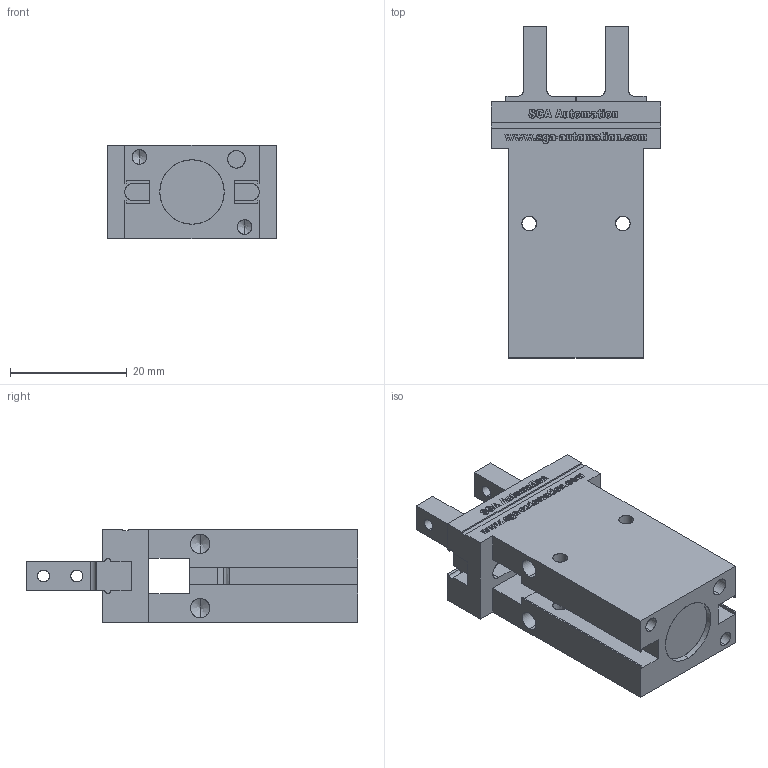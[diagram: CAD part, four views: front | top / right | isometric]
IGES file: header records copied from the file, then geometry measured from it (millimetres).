
Start section: SolidWorks IGES file using analytic representation for surfaces
Global section: file name: F:\Convertie\igs\GDZ 10 fermé.IGS; native system: SolidWorks 2014; preprocessor: SolidWorks 2014; author: adminlocal; date: 141222.161106; units: millimetre
Bounding box: 29 x 56.8 x 16 mm (x, y, z)
Surface area: 7699.8 mm2 (no closed solid volume)
Topology: 0 solids, 0 shells, 1223 faces, 13152 edges, 13140 vertices
Faces by surface type: bspline 1160, revolution 63
